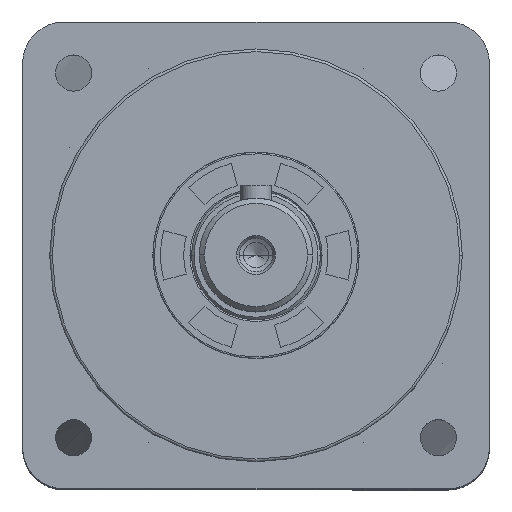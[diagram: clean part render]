
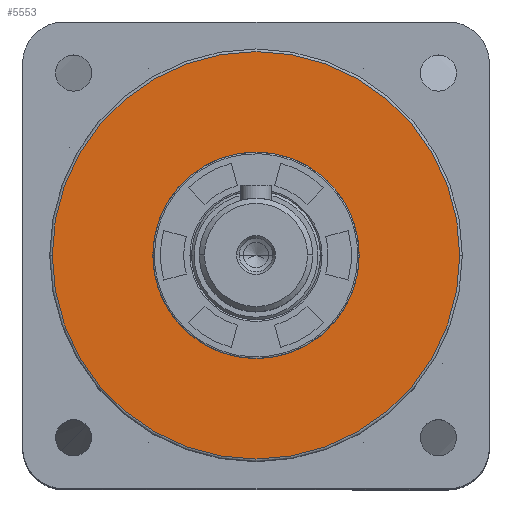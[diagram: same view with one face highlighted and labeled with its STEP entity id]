
A CAD part, top view. The second image highlights one B-rep face of the part: STEP entity #5553.
In plain terms, the highlighted planar face has unit normal (0, 0, 1).
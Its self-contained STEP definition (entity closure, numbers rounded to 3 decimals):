
#446 = DIRECTION ( 'NONE',  ( 0., 0., 1. ) ) ;
#921 = CIRCLE ( 'NONE', #20693, 39.5 ) ;
#1138 = DIRECTION ( 'NONE',  ( 1., 0., 0. ) ) ;
#2007 = CARTESIAN_POINT ( 'NONE',  ( 20., 0., 26.1 ) ) ;
#2884 = VERTEX_POINT ( 'NONE', #4642 ) ;
#3064 = EDGE_CURVE ( 'NONE', #2884, #18672, #21690, .T. ) ;
#3597 = VERTEX_POINT ( 'NONE', #27805 ) ;
#4642 = CARTESIAN_POINT ( 'NONE',  ( -20., 0., 26.1 ) ) ;
#5215 = ORIENTED_EDGE ( 'NONE', *, *, #28823, .T. ) ;
#5553 = ADVANCED_FACE ( 'NONE', ( #30665, #10757 ), #28266, .T. ) ;
#6375 = AXIS2_PLACEMENT_3D ( 'NONE', #30677, #18602, #18705 ) ;
#7160 = CARTESIAN_POINT ( 'NONE',  ( 39.5, 0., 26.1 ) ) ;
#7734 = AXIS2_PLACEMENT_3D ( 'NONE', #12878, #25038, #8257 ) ;
#7796 = EDGE_LOOP ( 'NONE', ( #24445, #18239 ) ) ;
#8257 = DIRECTION ( 'NONE',  ( 1., 0., 0. ) ) ;
#10757 = FACE_BOUND ( 'NONE', #7796, .T. ) ;
#12878 = CARTESIAN_POINT ( 'NONE',  ( 0., 0., 26.1 ) ) ;
#14919 = CARTESIAN_POINT ( 'NONE',  ( 0., 0., 26.1 ) ) ;
#15261 = VERTEX_POINT ( 'NONE', #7160 ) ;
#15872 = EDGE_LOOP ( 'NONE', ( #5215, #28002 ) ) ;
#17010 = CIRCLE ( 'NONE', #17023, 20. ) ;
#17023 = AXIS2_PLACEMENT_3D ( 'NONE', #18001, #27766, #1138 ) ;
#17215 = DIRECTION ( 'NONE',  ( 1., 0., 0. ) ) ;
#18001 = CARTESIAN_POINT ( 'NONE',  ( 0., 0., 26.1 ) ) ;
#18233 = DIRECTION ( 'NONE',  ( 0., 0., 1. ) ) ;
#18239 = ORIENTED_EDGE ( 'NONE', *, *, #3064, .F. ) ;
#18335 = CARTESIAN_POINT ( 'NONE',  ( 0., 0., 26.1 ) ) ;
#18602 = DIRECTION ( 'NONE',  ( 0., 0., 1. ) ) ;
#18672 = VERTEX_POINT ( 'NONE', #2007 ) ;
#18705 = DIRECTION ( 'NONE',  ( 1., 0., 0. ) ) ;
#19639 = CIRCLE ( 'NONE', #7734, 39.5 ) ;
#20337 = DIRECTION ( 'NONE',  ( 1., 0., 0. ) ) ;
#20693 = AXIS2_PLACEMENT_3D ( 'NONE', #18335, #18233, #20337 ) ;
#21690 = CIRCLE ( 'NONE', #24006, 20. ) ;
#24006 = AXIS2_PLACEMENT_3D ( 'NONE', #14919, #446, #17215 ) ;
#24330 = EDGE_CURVE ( 'NONE', #18672, #2884, #17010, .T. ) ;
#24445 = ORIENTED_EDGE ( 'NONE', *, *, #24330, .F. ) ;
#25038 = DIRECTION ( 'NONE',  ( 0., 0., 1. ) ) ;
#27766 = DIRECTION ( 'NONE',  ( 0., 0., 1. ) ) ;
#27805 = CARTESIAN_POINT ( 'NONE',  ( -39.5, 0., 26.1 ) ) ;
#28002 = ORIENTED_EDGE ( 'NONE', *, *, #30823, .T. ) ;
#28266 = PLANE ( 'NONE',  #6375 ) ;
#28823 = EDGE_CURVE ( 'NONE', #15261, #3597, #921, .T. ) ;
#30665 = FACE_OUTER_BOUND ( 'NONE', #15872, .T. ) ;
#30677 = CARTESIAN_POINT ( 'NONE',  ( 0., 0., 26.1 ) ) ;
#30823 = EDGE_CURVE ( 'NONE', #3597, #15261, #19639, .T. ) ;
